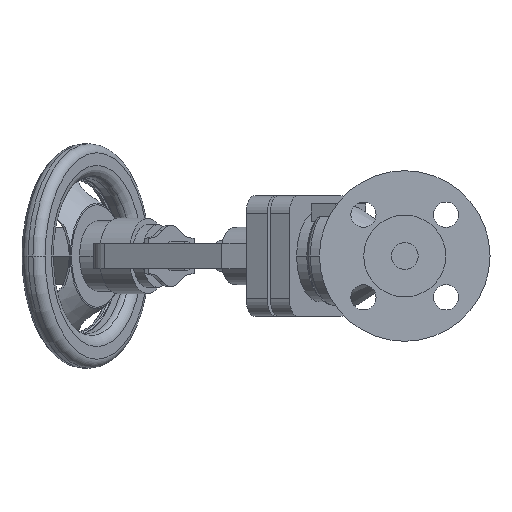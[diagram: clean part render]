
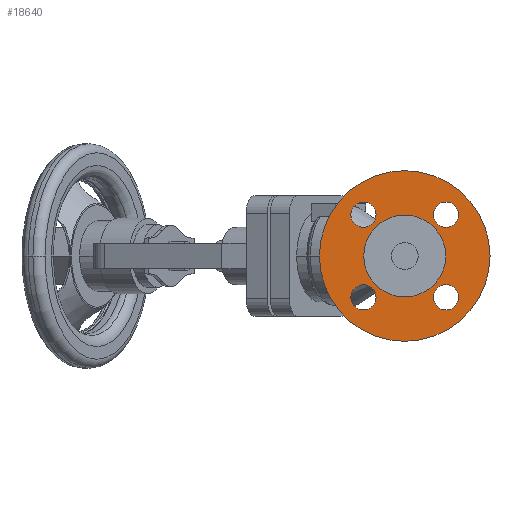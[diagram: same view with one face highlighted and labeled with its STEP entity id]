
A CAD part, left-side view. The second image highlights one B-rep face of the part: STEP entity #18640.
In plain terms, the highlighted planar face has unit normal (-1, 0, 0).
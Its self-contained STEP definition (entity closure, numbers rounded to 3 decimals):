
#8380=CARTESIAN_POINT('',(2.74,-22.815,0.));
#8390=VERTEX_POINT('',#8380);
#8420=CARTESIAN_POINT('',(2.74,0.,0.));
#8430=DIRECTION('',(-1.,0.,0.));
#8440=DIRECTION('',(0.,1.,0.));
#8450=AXIS2_PLACEMENT_3D('',#8420,#8430,#8440);
#8460=CIRCLE('',#8450,22.815);
#8470=CARTESIAN_POINT('',(2.74,22.815,0.));
#8480=VERTEX_POINT('',#8470);
#8490=EDGE_CURVE('',#8480,#8390,#8460,.T.);
#10300=CARTESIAN_POINT('',(2.74,0.,-47.5));
#10310=VERTEX_POINT('',#10300);
#10490=CARTESIAN_POINT('',(2.74,0.,47.5));
#10500=VERTEX_POINT('',#10490);
#10530=CARTESIAN_POINT('',(2.74,0.,0.));
#10540=DIRECTION('',(1.,0.,0.));
#10550=DIRECTION('',(0.,0.,-1.));
#10560=AXIS2_PLACEMENT_3D('',#10530,#10540,#10550);
#10570=CIRCLE('',#10560,47.5);
#10580=EDGE_CURVE('',#10310,#10500,#10570,.T.);
#10790=CARTESIAN_POINT('',(2.74,22.981,-15.981));
#10800=VERTEX_POINT('',#10790);
#10850=CARTESIAN_POINT('',(2.74,22.981,-22.981));
#10860=DIRECTION('',(-1.,0.,0.));
#10870=DIRECTION('',(0.,0.,-1.));
#10880=AXIS2_PLACEMENT_3D('',#10850,#10860,#10870);
#10890=CIRCLE('',#10880,7.);
#10900=CARTESIAN_POINT('',(2.74,22.981,-29.981));
#10910=VERTEX_POINT('',#10900);
#10920=EDGE_CURVE('',#10910,#10800,#10890,.T.);
#11280=CARTESIAN_POINT('',(2.74,-22.981,-15.981));
#11290=VERTEX_POINT('',#11280);
#11340=CARTESIAN_POINT('',(2.74,-22.981,-22.981));
#11350=DIRECTION('',(-1.,0.,0.));
#11360=DIRECTION('',(0.,0.,-1.));
#11370=AXIS2_PLACEMENT_3D('',#11340,#11350,#11360);
#11380=CIRCLE('',#11370,7.);
#11390=CARTESIAN_POINT('',(2.74,-22.981,-29.981));
#11400=VERTEX_POINT('',#11390);
#11410=EDGE_CURVE('',#11400,#11290,#11380,.T.);
#11770=CARTESIAN_POINT('',(2.74,22.981,15.981));
#11780=VERTEX_POINT('',#11770);
#11960=CARTESIAN_POINT('',(2.74,22.981,29.981));
#11970=VERTEX_POINT('',#11960);
#12000=CARTESIAN_POINT('',(2.74,22.981,22.981));
#12010=DIRECTION('',(-1.,0.,0.));
#12020=DIRECTION('',(0.,0.,-1.));
#12030=AXIS2_PLACEMENT_3D('',#12000,#12010,#12020);
#12040=CIRCLE('',#12030,7.);
#12050=EDGE_CURVE('',#11780,#11970,#12040,.T.);
#12260=CARTESIAN_POINT('',(2.74,-22.981,29.981));
#12270=VERTEX_POINT('',#12260);
#12450=CARTESIAN_POINT('',(2.74,-22.981,15.981));
#12460=VERTEX_POINT('',#12450);
#12490=CARTESIAN_POINT('',(2.74,-22.981,22.981));
#12500=DIRECTION('',(-1.,0.,0.));
#12510=DIRECTION('',(0.,0.,-1.));
#12520=AXIS2_PLACEMENT_3D('',#12490,#12500,#12510);
#12530=CIRCLE('',#12520,7.);
#12540=EDGE_CURVE('',#12270,#12460,#12530,.T.);
#18290=CARTESIAN_POINT('',(2.74,0.,0.));
#18300=DIRECTION('',(1.,0.,0.));
#18310=DIRECTION('',(0.,0.,-1.));
#18320=AXIS2_PLACEMENT_3D('',#18290,#18300,#18310);
#18330=PLANE('',#18320);
#18340=EDGE_CURVE('',#12460,#12270,#12530,.T.);
#18350=ORIENTED_EDGE('',*,*,#18340,.F.);
#18360=ORIENTED_EDGE('',*,*,#12540,.F.);
#18370=EDGE_LOOP('',(#18360,#18350));
#18380=FACE_BOUND('',#18370,.T.);
#18390=EDGE_CURVE('',#11970,#11780,#12040,.T.);
#18400=ORIENTED_EDGE('',*,*,#18390,.F.);
#18410=ORIENTED_EDGE('',*,*,#12050,.F.);
#18420=EDGE_LOOP('',(#18410,#18400));
#18430=FACE_BOUND('',#18420,.T.);
#18440=ORIENTED_EDGE('',*,*,#11410,.F.);
#18450=EDGE_CURVE('',#11290,#11400,#11380,.T.);
#18460=ORIENTED_EDGE('',*,*,#18450,.F.);
#18470=EDGE_LOOP('',(#18460,#18440));
#18480=FACE_BOUND('',#18470,.T.);
#18490=EDGE_CURVE('',#10800,#10910,#10890,.T.);
#18500=ORIENTED_EDGE('',*,*,#18490,.F.);
#18510=ORIENTED_EDGE('',*,*,#10920,.F.);
#18520=EDGE_LOOP('',(#18510,#18500));
#18530=FACE_BOUND('',#18520,.T.);
#18540=EDGE_CURVE('',#10500,#10310,#10570,.T.);
#18550=ORIENTED_EDGE('',*,*,#18540,.F.);
#18560=ORIENTED_EDGE('',*,*,#10580,.F.);
#18570=EDGE_LOOP('',(#18560,#18550));
#18580=FACE_OUTER_BOUND('',#18570,.T.);
#18590=ORIENTED_EDGE('',*,*,#8490,.F.);
#18600=EDGE_CURVE('',#8390,#8480,#8460,.T.);
#18610=ORIENTED_EDGE('',*,*,#18600,.F.);
#18620=EDGE_LOOP('',(#18610,#18590));
#18630=FACE_BOUND('',#18620,.T.);
#18640=ADVANCED_FACE('',(#18380,#18430,#18480,#18530,#18580,#18630),
#18330,.F.);
